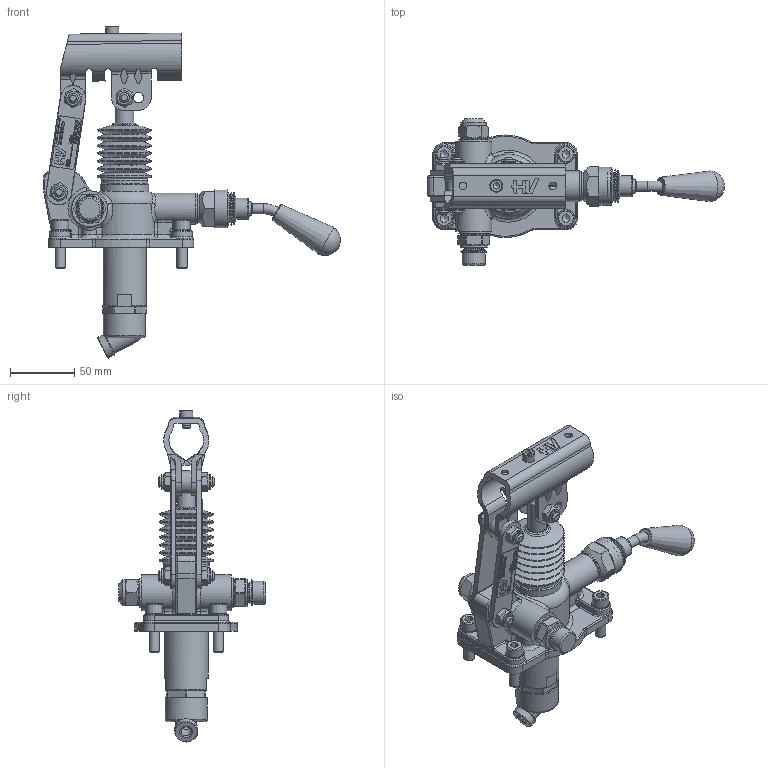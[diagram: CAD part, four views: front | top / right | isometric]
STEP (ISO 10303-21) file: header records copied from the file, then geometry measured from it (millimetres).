
FILE_DESCRIPTION((''),'2;1');
FILE_NAME('G:\HV_HYDRAULIC\AZIENDA_HV_HYDRAULIC\ARCHIVIO_DISEGNI\5_PRODOTTI_FINITI\1_POMPE_MANUALI\6050_PM_12\6050.0121_PM_12_byB-m-s_(HV)\6050.0121.stp','2024-02-28T07:44:45',('christian.scardovi'),(''),'Autodesk Inventor 2013','Autodesk Inventor 2013','');
FILE_SCHEMA(('AUTOMOTIVE_DESIGN { 1 0 10303 214 1 1 1 1 }'));
Length unit declared in the file: millimetre
Products named in the file (1): 6050.0121
Bounding box: 231.43 x 114 x 258.81 mm (x, y, z)
Volume: 412160.2 mm3; surface area: 125926.7 mm2
Topology: 3 solids, 3 shells, 1504 faces, 3750 edges, 2356 vertices
Faces by surface type: plane 724, cylinder 304, bspline 191, cone 161, torus 107, sphere 17
Full cylindrical faces by diameter (mm): 3 x2, 4 x1, 5 x5, 5.5 x1, 6 x4, 6.5 x2, 8 x16, 9 x3, 9.2 x1, 10 x5, 10.376 x1, 11.05 x6, 12 x5, 13 x4, 13.2 x1, 13.468 x1, 14 x4, 14.5 x1, 14.6 x1, 14.95 x3, 15 x4, 15.5 x1, 16 x3, 16.468 x1, 16.6 x3, 17 x1, 18 x5, 19.7 x1, 20 x6, 21 x2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
Entity records: 46605 total; most frequent: CARTESIAN_POINT 12167, ORIENTED_EDGE 6754, DIRECTION 6319, EDGE_CURVE 3377, VERTEX_POINT 2269, AXIS2_PLACEMENT_3D 2257, EDGE_LOOP 1919, VECTOR 1805
